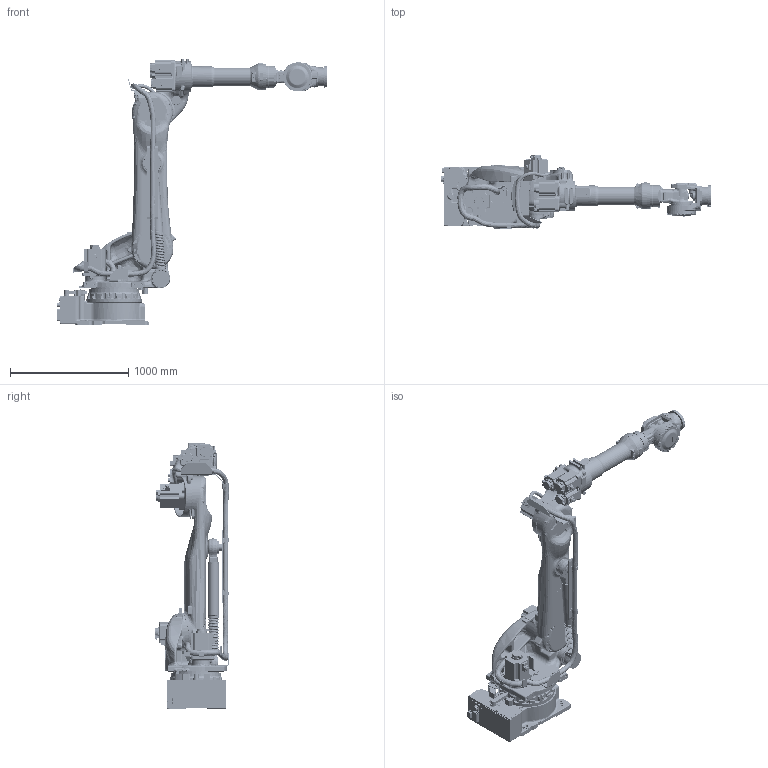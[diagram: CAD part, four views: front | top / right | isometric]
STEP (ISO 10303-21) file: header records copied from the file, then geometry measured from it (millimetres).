
FILE_DESCRIPTION(/* description */ (''),/* implementation_level */ '2;1');
FILE_NAME(/* name */ 'MS210-MH225.stp',/* time_stamp */ '2014-03-20T08:41:04+01:00',/* author */ (''),/* organization */ (''),/* preprocessor_version */ 'ST-DEVELOPER v14',/* originating_system */ 'SIEMENS PLM Software NX 8.0',/* authorisation */ '');
FILE_SCHEMA (('AUTOMOTIVE_DESIGN { 1 0 10303 214 3 1 1 1 }'));
Products named in the file (10): BALANCER_2_AXIS; BALANCER_1_AXIS; T_AXIS; B_AXIS; R_AXIS; U_AXIS; L_AXIS; S_AXIS; BASE_AXIS; MHS210-MH225
Assembly tree (9 placements, depth 2):
  MHS210-MH225
    BASE_AXIS
    S_AXIS
    L_AXIS
    U_AXIS
    R_AXIS
    B_AXIS
    T_AXIS
    BALANCER_1_AXIS
    BALANCER_2_AXIS
Bounding box: 2281.3 x 624.5 x 2253 mm (x, y, z)
Volume: 274288769.7 mm3; surface area: 9159952.6 mm2
Topology: 10 solids, 12 shells, 7161 faces, 17838 edges, 10839 vertices
Faces by surface type: plane 2260, cylinder 2250, bspline 1305, torus 747, cone 370, sphere 184, revolution 43, extrusion 2
Full cylindrical faces by diameter (mm): 9 x1
Entity records: 348969 total; most frequent: CARTESIAN_POINT 187445, ORIENTED_EDGE 35416, DIRECTION 31915, EDGE_CURVE 17708, AXIS2_PLACEMENT_3D 12244, VERTEX_POINT 10836, EDGE_LOOP 7518, VECTOR 7384
